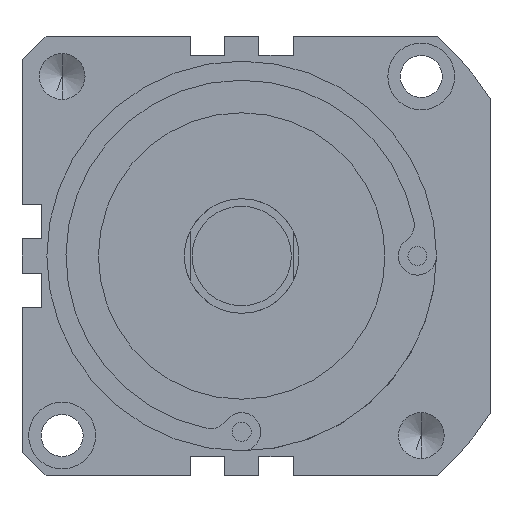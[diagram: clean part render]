
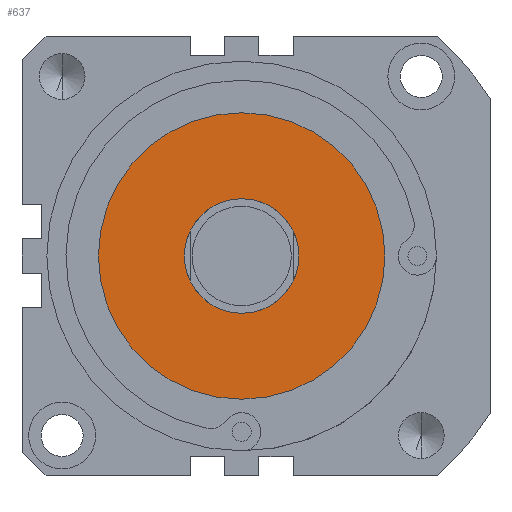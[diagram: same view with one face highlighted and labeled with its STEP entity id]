
A CAD part, front view. The second image highlights one B-rep face of the part: STEP entity #637.
In plain terms, the highlighted planar face has unit normal (0, -1, 0).
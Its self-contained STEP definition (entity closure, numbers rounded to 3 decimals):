
#11 = CARTESIAN_POINT ( 'NONE',  ( 0., -93., 37.5 ) ) ;
#96 = DIRECTION ( 'NONE',  ( 0., 1., 0. ) ) ;
#182 = CIRCLE ( 'NONE', #356, 15. ) ;
#303 = ORIENTED_EDGE ( 'NONE', *, *, #1342, .T. ) ;
#356 = AXIS2_PLACEMENT_3D ( 'NONE', #617, #4225, #2925 ) ;
#382 = ORIENTED_EDGE ( 'NONE', *, *, #2833, .F. ) ;
#555 = DIRECTION ( 'NONE',  ( 0., 1., 0. ) ) ;
#592 = FACE_OUTER_BOUND ( 'NONE', #4166, .T. ) ;
#599 = CARTESIAN_POINT ( 'NONE',  ( 0., -93., 0. ) ) ;
#606 = VERTEX_POINT ( 'NONE', #3884 ) ;
#617 = CARTESIAN_POINT ( 'NONE',  ( 0., -93., 0. ) ) ;
#637 = ADVANCED_FACE ( 'NONE', ( #1333, #592 ), #1232, .F. ) ;
#654 = CIRCLE ( 'NONE', #3398, 37.5 ) ;
#669 = VERTEX_POINT ( 'NONE', #3068 ) ;
#743 = EDGE_CURVE ( 'NONE', #2754, #606, #654, .T. ) ;
#882 = EDGE_CURVE ( 'NONE', #669, #2312, #1341, .T. ) ;
#892 = DIRECTION ( 'NONE',  ( 0., 0., 1. ) ) ;
#1128 = CARTESIAN_POINT ( 'NONE',  ( 0., -93., 0. ) ) ;
#1174 = ORIENTED_EDGE ( 'NONE', *, *, #882, .T. ) ;
#1232 = PLANE ( 'NONE',  #4050 ) ;
#1244 = DIRECTION ( 'NONE',  ( 0., 1., 0. ) ) ;
#1333 = FACE_BOUND ( 'NONE', #3133, .T. ) ;
#1341 = CIRCLE ( 'NONE', #3862, 15. ) ;
#1342 = EDGE_CURVE ( 'NONE', #2312, #669, #182, .T. ) ;
#1468 = DIRECTION ( 'NONE',  ( 0., 1., 0. ) ) ;
#1928 = ORIENTED_EDGE ( 'NONE', *, *, #743, .F. ) ;
#2098 = AXIS2_PLACEMENT_3D ( 'NONE', #3035, #96, #3387 ) ;
#2216 = CARTESIAN_POINT ( 'NONE',  ( 0., -93., 0. ) ) ;
#2312 = VERTEX_POINT ( 'NONE', #4011 ) ;
#2754 = VERTEX_POINT ( 'NONE', #11 ) ;
#2833 = EDGE_CURVE ( 'NONE', #606, #2754, #3898, .T. ) ;
#2925 = DIRECTION ( 'NONE',  ( 0., 0., 1. ) ) ;
#3035 = CARTESIAN_POINT ( 'NONE',  ( 0., -93., 0. ) ) ;
#3068 = CARTESIAN_POINT ( 'NONE',  ( 0., -93., -15. ) ) ;
#3131 = DIRECTION ( 'NONE',  ( 0., 0., 1. ) ) ;
#3133 = EDGE_LOOP ( 'NONE', ( #303, #1174 ) ) ;
#3387 = DIRECTION ( 'NONE',  ( 0., 0., 1. ) ) ;
#3398 = AXIS2_PLACEMENT_3D ( 'NONE', #1128, #1468, #3131 ) ;
#3524 = DIRECTION ( 'NONE',  ( 0., 0., 1. ) ) ;
#3862 = AXIS2_PLACEMENT_3D ( 'NONE', #2216, #555, #3524 ) ;
#3884 = CARTESIAN_POINT ( 'NONE',  ( 0., -93., -37.5 ) ) ;
#3898 = CIRCLE ( 'NONE', #2098, 37.5 ) ;
#4011 = CARTESIAN_POINT ( 'NONE',  ( 0., -93., 15. ) ) ;
#4050 = AXIS2_PLACEMENT_3D ( 'NONE', #599, #1244, #892 ) ;
#4166 = EDGE_LOOP ( 'NONE', ( #382, #1928 ) ) ;
#4225 = DIRECTION ( 'NONE',  ( 0., 1., 0. ) ) ;
